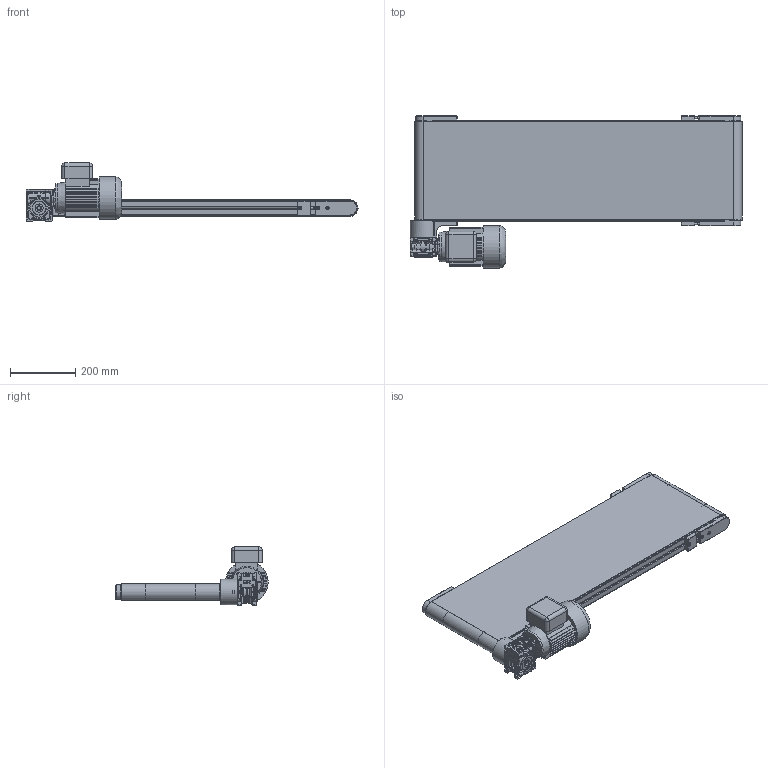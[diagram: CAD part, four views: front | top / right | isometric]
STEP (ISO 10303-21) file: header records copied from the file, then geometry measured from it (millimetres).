
FILE_DESCRIPTION (( 'STEP AP214' ), '1' );
FILE_NAME ('TB52 300X1000 DIRECT A DROITE HORIZONTAL.STEP', '2022-10-10T13:08:06', ( '' ), ( '' ), 'SwSTEP 2.0', 'SolidWorks 2022', '' );
FILE_SCHEMA (( 'AUTOMOTIVE_DESIGN' ));
Length unit declared in the file: millimetre
Products named in the file (20): TB52 300X1000 DIRECT A DROITE HORIZONTAL; TH_910-229; 982-011; 982-000; CLAVETTE_910-165; 983-000H; 982-002H; CHASSIS TB52_Défaut<Brut d''usinage>; CHC THE_910-064H; 982-016H; TH_910-167; CHC THE_910-065H; 982-012-180W; 980-000; 983-002; 982-008; 982-001B_982-001B-300; 982-003; 910-010; 983-001
Assembly tree (36 placements, depth 3):
  TB52 300X1000 DIRECT A DROITE HORIZONTAL
    CHASSIS TB52_Défaut<Brut d''usinage>
    983-000H
      982-016H
      980-000
      982-002H
      CHC THE_910-065H  x2
      910-010  x2
      CLAVETTE_910-165
      CHC THE_910-064H  x3
    983-002  x2
      982-008
      TH_910-167
      CHC THE_910-065H
      910-010
    982-001B_982-001B-300  x2
    983-001  x3
      982-000
      982-003
      CHC THE_910-065H
      910-010
    982-011
    TH_910-229  x4
    982-012-180W
Bounding box: 1014 x 465 x 178 mm (x, y, z)
Volume: 8995331.4 mm3; surface area: 3267962.7 mm2
Topology: 53 solids, 58 shells, 2014 faces, 5045 edges, 3271 vertices
Faces by surface type: plane 1319, cylinder 328, cone 297, torus 65, bspline 5
Full cylindrical faces by diameter (mm): 3.242 x1, 4.2 x8, 5 x16, 5.98 x13, 6 x15, 6.5 x13, 7 x4, 7.3 x6, 8 x2, 10 x13, 11 x14, 14 x1, 15 x7, 16 x1, 20 x4, 21 x6, 24 x4, 25 x2, 26 x2, 29 x6, 30 x2, 31 x3, 34 x1, 35 x8, 36 x2, 37 x1, 42 x2, 45 x1, 49 x2, 55 x2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
Entity records: 44225 total; most frequent: CARTESIAN_POINT 9074, ORIENTED_EDGE 6926, DIRECTION 6511, EDGE_CURVE 3463, LINE 2469, VECTOR 2469, VERTEX_POINT 2351, AXIS2_PLACEMENT_3D 2021
